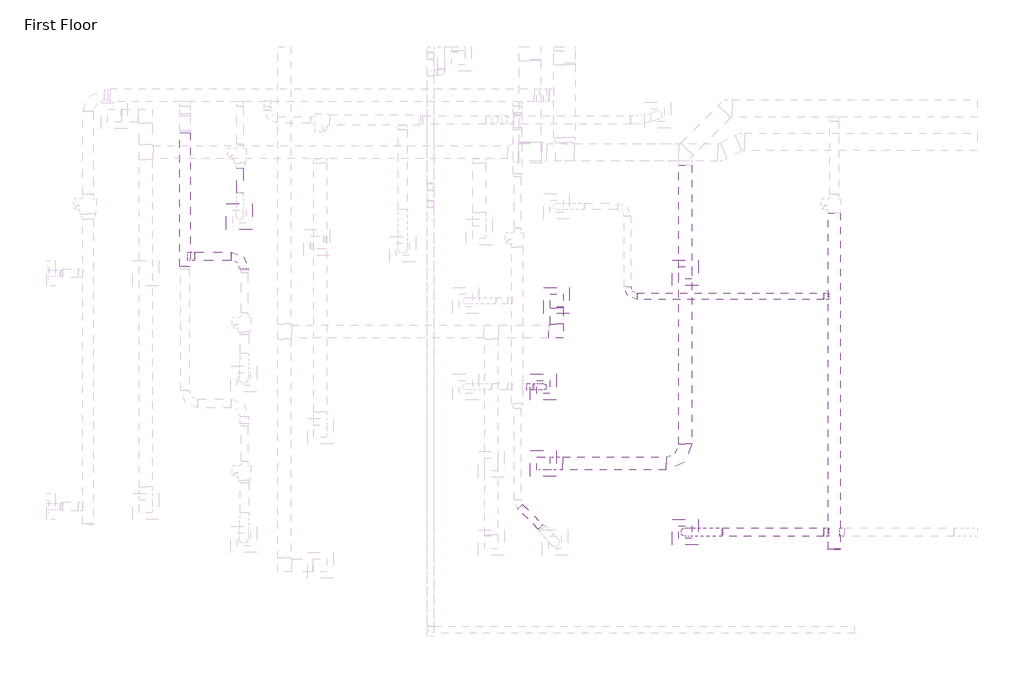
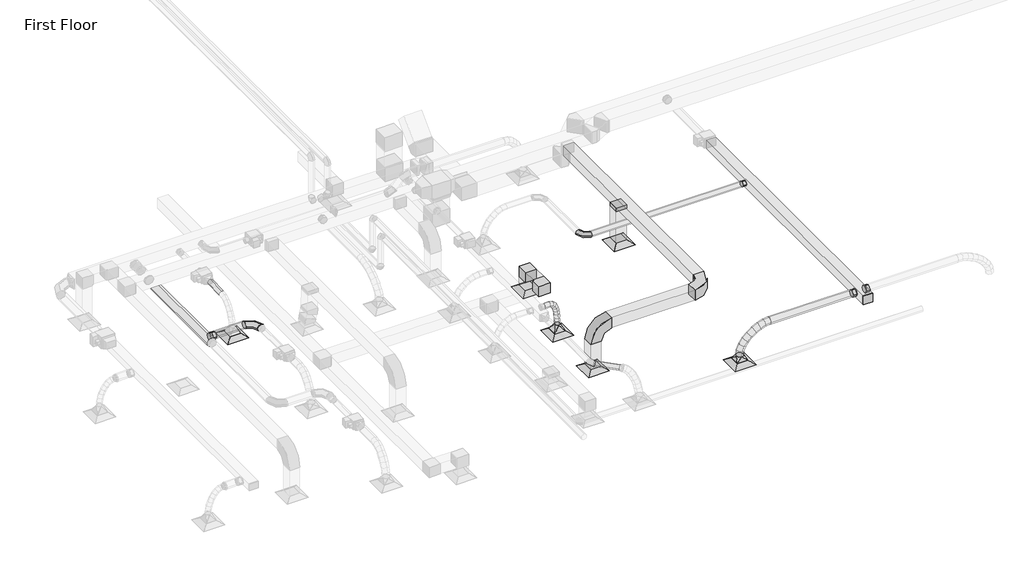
# One storey, part 4 of 61: 16 duct segments, 14 duct fittings, 6 air terminals.
"""IFC4 building model written with IfcOpenShell, lengths in millimetres."""

from ifc_helpers import new_model, si_unit, point, frame, frame_2d, origin, place, context, project, spatial, polyline, circle_curve, ellipse_curve, trimmed, segment, composite_curve, outline, extrude, transform, mapped, element, save
from ifc_brep_helpers import plane_surface, cylinder_surface, advanced_brep
from components import m_exhaust_grill_er_600_x_600_face_300_x_300_connection_ff221211, m_rectangular_elbow_mitered_standard_8eee5933, m_rectangular_elbow_radius_1_5_w_86011e9f, m_rectangular_endcap_standard_7316ac99, m_rectangular_takeoff_standard_c00386d1, m_rectangular_to_round_transition_angle_45_degree_8f201c83, m_rectangular_to_round_transition_angle_45_degree_60daae35, m_round_elbow_1_5_d_2e586196, m_round_elbow_1_5_d_b7bc3624, m_round_takeoff_standard_d02f3bf7, m_round_takeoff_standard_8efdd074, m_round_takeoff_standard_45336e8a, m_round_takeoff_standard_4e9a6aa0

model = new_model("IFC4")

# Units and contexts
model_context = context("Model", 3, world=origin())
ifc_project = project(units=[si_unit("LENGTHUNIT", "METRE", prefix="MILLI")], contexts=[model_context])

# Site, building, storey
site = spatial("IfcSite", under=ifc_project)
building = spatial("IfcBuilding", under=site)
storey = spatial("IfcBuildingStorey", under=building, Name="First Floor", Elevation=0.0)

# Air terminals
placement = place(None, origin())
m_exhaust_grill_er_600_x_600_face_300_x_300_connection_shape = m_exhaust_grill_er_600_x_600_face_300_x_300_connection_ff221211(model_context)
element("IfcAirTerminal", 1, ObjectType="M_Exhaust Grill : ER-600 x 600 Face 300 x 300 Connection", at=placement, inside=storey, context=model_context, shape_type="MappedRepresentation", body=[
    mapped(m_exhaust_grill_er_600_x_600_face_300_x_300_connection_shape, transform((-39248.7372444, 7090.0613083, 2680.0), x_axis=(1.0, 0.0, 0.0), y_axis=(0.0, 1.0, 0.0), z_axis=(0.0, 0.0, 1.0))),
])
element("IfcAirTerminal", 2, ObjectType="M_Return Register : RR-600 x 600 Face 300 x 300 Connection", at=placement, inside=storey, context=model_context, shape_type="MappedRepresentation", body=[
    mapped(m_exhaust_grill_er_600_x_600_face_300_x_300_connection_shape, transform((-39554.8939141, 3309.4994864, 2680.0), x_axis=(1.0, 0.0, 0.0), y_axis=(0.0, 1.0, 0.0), z_axis=(0.0, 0.0, 1.0))),
])
element("IfcAirTerminal", 3, ObjectType="M_Return Register : RR-600 x 600 Face 300 x 300 Connection", at=placement, inside=storey, context=model_context, shape_type="MappedRepresentation", body=[
    mapped(m_exhaust_grill_er_600_x_600_face_300_x_300_connection_shape, transform((-36259.5438707, 7737.2789856, 2680.0), x_axis=(1.0, 0.0, 0.0), y_axis=(0.0, 1.0, 0.0), z_axis=(0.0, 0.0, 1.0))),
])
element("IfcAirTerminal", 4, ObjectType="M_Supply Diffuser : SD-600 x 600 Face 300 x 300 Connection", at=placement, inside=storey, context=model_context, shape_type="MappedRepresentation", body=[
    mapped(m_exhaust_grill_er_600_x_600_face_300_x_300_connection_shape, transform((-46605.270034, 9039.3672466, 2680.0), x_axis=(1.0, 0.0, 0.0), y_axis=(0.0, 1.0, 0.0), z_axis=(0.0, 0.0, 1.0))),
])
element("IfcAirTerminal", 5, ObjectType="M_Supply Diffuser : SD-600 x 600 Face 300 x 300 Connection", at=placement, inside=storey, context=model_context, shape_type="MappedRepresentation", body=[
    mapped(m_exhaust_grill_er_600_x_600_face_300_x_300_connection_shape, transform((-39554.8939141, 5090.8486203, 2680.0), x_axis=(1.0, 0.0, 0.0), y_axis=(0.0, 1.0, 0.0), z_axis=(0.0, 0.0, 1.0))),
])
element("IfcAirTerminal", 6, ObjectType="M_Supply Diffuser : SD-600 x 600 Face 300 x 300 Connection", at=placement, inside=storey, context=model_context, shape_type="MappedRepresentation", body=[
    mapped(m_exhaust_grill_er_600_x_600_face_300_x_300_connection_shape, transform((-36259.5438707, 1718.8314851, 2680.0), x_axis=(1.0, 0.0, 0.0), y_axis=(0.0, 1.0, 0.0), z_axis=(0.0, 0.0, 1.0))),
])

# Duct fittings
m_rectangular_elbow_mitered_standard_shape = m_rectangular_elbow_mitered_standard_8eee5933(model_context)
element("IfcDuctFitting", 7, ObjectType="M_Rectangular Elbow - Mitered : Standard", at=placement, inside=storey, context=model_context, shape_type="MappedRepresentation", body=[
    mapped(m_rectangular_elbow_mitered_standard_shape, transform((-39248.7372444, 7090.0613083, 3200.0), x_axis=(0.0, 0.0, 1.0), y_axis=(0.0, -1.0, 0.0), z_axis=(1.0, 0.0, 0.0))),
])
element("IfcDuctFitting", 8, ObjectType="M_Rectangular Elbow - Mitered : Standard", at=placement, inside=storey, context=model_context, shape_type="MappedRepresentation", body=[
    mapped(m_rectangular_elbow_mitered_standard_shape, transform((-39248.7372444, 6376.0224534, 3200.0), x_axis=(1.0, 0.0, 0.0), y_axis=(0.0, 1.0, 0.0), z_axis=(0.0, 0.0, 1.0))),
])
m_rectangular_elbow_radius_1_5_w_shape = m_rectangular_elbow_radius_1_5_w_86011e9f(model_context)
element("IfcDuctFitting", 9, ObjectType="M_Rectangular Elbow - Radius : 1.5 W", at=placement, inside=storey, context=model_context, shape_type="MappedRepresentation", body=[
    mapped(m_rectangular_elbow_radius_1_5_w_shape, transform((-39554.8939141, 3309.4994864, 4000.0), x_axis=(0.0, 0.0, 1.0), y_axis=(1.0, 0.0, 0.0), z_axis=(0.0, 1.0, 0.0))),
])
element("IfcDuctFitting", 10, ObjectType="M_Rectangular Elbow - Radius : 1.5 W", at=placement, inside=storey, context=model_context, shape_type="MappedRepresentation", body=[
    mapped(m_rectangular_elbow_radius_1_5_w_shape, transform((-36259.5438707, 3309.4994864, 4000.0), x_axis=(1.0, 0.0, 0.0), y_axis=(0.0, 1.0, 0.0), z_axis=(0.0, 0.0, 1.0))),
])
m_rectangular_endcap_standard_shape = m_rectangular_endcap_standard_7316ac99(model_context)
element("IfcDuctFitting", 11, ObjectType="M_Rectangular Endcap : Standard", at=placement, inside=storey, context=model_context, shape_type="MappedRepresentation", body=[
    mapped(m_rectangular_endcap_standard_shape, transform((-32807.2625281, 1328.9329872, 3644.1), x_axis=(0.0, -1.0, 0.0), y_axis=(1.0, 0.0, 0.0), z_axis=(0.0, 0.0, 1.0))),
])
m_rectangular_takeoff_standard_shape = m_rectangular_takeoff_standard_c00386d1(model_context)
element("IfcDuctFitting", 12, ObjectType="M_Rectangular Takeoff : Standard", at=placement, inside=storey, context=model_context, shape_type="MappedRepresentation", body=[
    mapped(m_rectangular_takeoff_standard_shape, transform((-36259.5438707, 7737.2789856, 3850.0), x_axis=(0.0, 0.0, -1.0), y_axis=(1.0, 0.0, 0.0), z_axis=(0.0, -1.0, 0.0))),
])
m_rectangular_to_round_transition_angle_45_degree_shape = m_rectangular_to_round_transition_angle_45_degree_8f201c83(model_context)
element("IfcDuctFitting", 13, ObjectType="M_Rectangular to Round Transition - Angle : 45 Degree", at=placement, inside=storey, context=model_context, shape_type="MappedRepresentation", body=[
    mapped(m_rectangular_to_round_transition_angle_45_degree_shape, transform((-39554.8939141, 5090.8486203, 2781.6), x_axis=(0.0, 0.0, 1.0), y_axis=(1.0, 0.0, 0.0), z_axis=(0.0, 1.0, 0.0))),
])
m_rectangular_to_round_transition_angle_45_degree_2_shape = m_rectangular_to_round_transition_angle_45_degree_60daae35(model_context)
element("IfcDuctFitting", 14, ObjectType="M_Rectangular to Round Transition - Angle : 45 Degree", at=placement, inside=storey, context=model_context, shape_type="MappedRepresentation", body=[
    mapped(m_rectangular_to_round_transition_angle_45_degree_2_shape, transform((-36259.5438707, 1718.8314851, 2781.6), x_axis=(0.0, 0.0, 1.0), y_axis=(1.0, 0.0, 0.0), z_axis=(0.0, 1.0, 0.0))),
])
m_round_elbow_1_5_d_shape = m_round_elbow_1_5_d_2e586196(model_context)
element("IfcDuctFitting", 15, ObjectType="M_Round Elbow : 1.5 D", at=placement, inside=storey, context=model_context, shape_type="MappedRepresentation", body=[
    mapped(m_round_elbow_1_5_d_shape, transform((-37607.2625281, 7192.6438141, 3644.1), x_axis=(0.0, -1.0, 0.0), y_axis=(1.0, 0.0, 0.0), z_axis=(0.0, 0.0, 1.0))),
])
m_round_elbow_1_5_d_2_shape = m_round_elbow_1_5_d_b7bc3624(model_context)
element("IfcDuctFitting", 16, ObjectType="M_Round Elbow : 1.5 D", at=placement, inside=storey, context=model_context, shape_type="MappedRepresentation", body=[
    mapped(m_round_elbow_1_5_d_2_shape, transform((-46488.9134544, 8124.2820296, 3609.5), x_axis=(0.0, 0.9999999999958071, 2.895840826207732e-06), y_axis=(-1.0000000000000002, 0.0, 0.0), z_axis=(0.0, -2.895840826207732e-06, 0.9999999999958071))),
])
m_round_takeoff_standard_shape = m_round_takeoff_standard_d02f3bf7(model_context)
element("IfcDuctFitting", 17, ObjectType="M_Round Takeoff : Standard", at=placement, inside=storey, context=model_context, shape_type="MappedRepresentation", body=[
    mapped(m_round_takeoff_standard_shape, transform((-32944.7625281, 7192.6438141, 3644.1), x_axis=(-1.0, 0.0, 0.0), y_axis=(0.0, 1.0, 0.0), z_axis=(0.0, 0.0, -1.0))),
])
m_round_takeoff_standard_2_shape = m_round_takeoff_standard_8efdd074(model_context)
element("IfcDuctFitting", 18, ObjectType="M_Round Takeoff : Standard", at=placement, inside=storey, context=model_context, shape_type="MappedRepresentation", body=[
    mapped(m_round_takeoff_standard_2_shape, transform((-32944.7625281, 1718.8314851, 3644.1), x_axis=(-1.0, 0.0, 0.0), y_axis=(0.0, 1.0, 0.0), z_axis=(0.0, 0.0, -1.0))),
])
m_round_takeoff_standard_3_shape = m_round_takeoff_standard_45336e8a(model_context)
element("IfcDuctFitting", 19, ObjectType="M_Round Takeoff : Standard", at=placement, inside=storey, context=model_context, shape_type="MappedRepresentation", body=[
    mapped(m_round_takeoff_standard_3_shape, transform((-32669.7625281, 1718.8314851, 3644.1), x_axis=(1.0, 0.0, 0.0), y_axis=(0.0, -1.0, 0.0), z_axis=(0.0, 0.0, -1.0))),
])
m_round_takeoff_standard_4_shape = m_round_takeoff_standard_4e9a6aa0(model_context)
element("IfcDuctFitting", 20, ObjectType="M_Round Takeoff : Standard", at=placement, inside=storey, context=model_context, shape_type="MappedRepresentation", body=[
    mapped(m_round_takeoff_standard_4_shape, transform((-47743.9134544, 8124.2820296, 3609.5), x_axis=(1.0, 0.0, 0.0), y_axis=(0.0, -1.0, 0.0), z_axis=(0.0, 0.0, -1.0))),
])

# Duct segments
element("IfcDuctSegment", 21, ObjectType="Flex - Round", at=placement, inside=storey, context=model_context, shape_type="AdvancedBrep", body=[
    advanced_brep(
    [(-39779.8939141, 5165.8486203, 3619.1), (-39797.8129849, 5090.8486203, 3546.2720733), (-39779.8939141, 5015.8486203, 3619.1), (-39761.9748433, 5090.8486203, 3691.9279267), (-39703.8152462, 5165.8486203, 3600.381095), (-39740.1263123, 5090.8486203, 3532.0784581), (-39703.8152462, 5015.8486203, 3600.381095), (-39667.5041801, 5090.8486203, 3668.683732), (-39554.8939141, 5165.8486203, 2962.6660172), (-39479.8940509, 5090.8486203, 2962.8092731), (-39554.8939141, 5015.8486203, 2962.6660172), (-39629.8937773, 5090.8486203, 2962.5227612), (-39647.1545959, 5165.8486203, 3549.0598796), (-39707.4152587, 5090.8486203, 3502.4499412), (-39647.1545959, 5015.8486203, 3549.0598796), (-39586.8939332, 5090.8486203, 3595.6698179), (-39607.0534785, 5165.8486203, 3472.3896027), (-39677.1790229, 5090.8486203, 3444.6405655), (-39607.0534785, 5015.8486203, 3472.3896027), (-39536.9279341, 5090.8486203, 3500.13864), (-39580.6534091, 5165.8486203, 3377.6235136), (-39654.1662127, 5090.8486203, 3362.0334334), (-39580.6534091, 5015.8486203, 3377.6235136), (-39507.1406054, 5090.8486203, 3393.2135939), (-39565.0959028, 5165.8486203, 3272.0148614), (-39639.7162465, 5090.8486203, 3263.9430693), (-39565.0959028, 5015.8486203, 3272.0148614), (-39490.475559, 5090.8486203, 3280.0866535), (-39557.5224747, 5165.8486203, 3162.8168952), (-39632.4622542, 5090.8486203, 3159.3509079), (-39557.5224747, 5015.8486203, 3162.8168952), (-39482.5826953, 5090.8486203, 3166.2828825), (-39555.0746401, 5165.8486203, 3057.2828641), (-39630.072979, 5090.8486203, 3056.3415606), (-39555.0746401, 5015.8486203, 3057.2828641), (-39480.0763013, 5090.8486203, 3058.2241675)],
    [
        (0, 1, circle_curve(frame((-39779.8939141, 5090.8486203, 3619.1), z_axis=(-0.9710390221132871, 0.0, 0.23892094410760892), x_axis=(0.0, 1.0, 0.0)), 75.0)),
        (1, 2, circle_curve(frame((-39779.8939141, 5090.8486203, 3619.1), z_axis=(-0.9710390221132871, 0.0, 0.23892094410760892), x_axis=(0.0, 1.0, 0.0)), 75.0)),
        (2, 3, circle_curve(frame((-39779.8939141, 5090.8486203, 3619.1), z_axis=(-0.9710390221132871, 0.0, 0.23892094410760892), x_axis=(0.0, 1.0, 0.0)), 75.0)),
        (3, 0, circle_curve(frame((-39779.8939141, 5090.8486203, 3619.1), z_axis=(-0.9710390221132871, 0.0, 0.23892094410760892), x_axis=(0.0, 1.0, 0.0)), 75.0)),
        (0, 4),
        (4, 5, ellipse_curve(frame((-39703.8152462, 5090.8486203, 3600.381095), z_axis=(-0.8829802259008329, 0.0, 0.4694101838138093), x_axis=(-0.46941018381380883, 0.0, -0.8829802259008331)), 77.354662, 75.0)),
        (5, 1),
        (5, 6, ellipse_curve(frame((-39703.8152462, 5090.8486203, 3600.381095), z_axis=(-0.8829802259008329, 0.0, 0.4694101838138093), x_axis=(-0.46941018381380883, 0.0, -0.8829802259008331)), 77.354662, 75.0)),
        (6, 2),
        (6, 7, ellipse_curve(frame((-39703.8152462, 5090.8486203, 3600.381095), z_axis=(-0.8829802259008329, 0.0, 0.4694101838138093), x_axis=(-0.46941018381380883, 0.0, -0.8829802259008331)), 77.354662, 75.0)),
        (7, 3),
        (7, 4, ellipse_curve(frame((-39703.8152462, 5090.8486203, 3600.381095), z_axis=(-0.8829802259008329, 0.0, 0.4694101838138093), x_axis=(-0.46941018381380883, 0.0, -0.8829802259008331)), 77.354662, 75.0)),
        (8, 9, circle_curve(frame((-39554.8939141, 5090.8486203, 2962.6660172), z_axis=(0.0019100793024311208, 0.0, -0.9999981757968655), x_axis=(0.0, 1.0, 0.0)), 75.0)),
        (9, 10, circle_curve(frame((-39554.8939141, 5090.8486203, 2962.6660172), z_axis=(0.0019100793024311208, 0.0, -0.9999981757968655), x_axis=(0.0, 1.0, 0.0)), 75.0)),
        (10, 11, circle_curve(frame((-39554.8939141, 5090.8486203, 2962.6660172), z_axis=(0.0019100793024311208, 0.0, -0.9999981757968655), x_axis=(0.0, 1.0, 0.0)), 75.0)),
        (11, 8, circle_curve(frame((-39554.8939141, 5090.8486203, 2962.6660172), z_axis=(0.0019100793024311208, 0.0, -0.9999981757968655), x_axis=(0.0, 1.0, 0.0)), 75.0)),
        (4, 12),
        (12, 13, ellipse_curve(frame((-39647.1545959, 5090.8486203, 3549.0598796), z_axis=(-0.6118163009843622, 0.0, 0.7909998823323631), x_axis=(-0.7909998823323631, 0.0, -0.6118163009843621)), 76.1828972, 75.0)),
        (13, 5),
        (13, 14, ellipse_curve(frame((-39647.1545959, 5090.8486203, 3549.0598796), z_axis=(-0.6118163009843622, 0.0, 0.7909998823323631), x_axis=(-0.7909998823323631, 0.0, -0.6118163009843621)), 76.1828972, 75.0)),
        (14, 6),
        (14, 15, ellipse_curve(frame((-39647.1545959, 5090.8486203, 3549.0598796), z_axis=(-0.6118163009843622, 0.0, 0.7909998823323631), x_axis=(-0.7909998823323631, 0.0, -0.6118163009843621)), 76.1828972, 75.0)),
        (15, 7),
        (15, 12, ellipse_curve(frame((-39647.1545959, 5090.8486203, 3549.0598796), z_axis=(-0.6118163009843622, 0.0, 0.7909998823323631), x_axis=(-0.7909998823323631, 0.0, -0.6118163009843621)), 76.1828972, 75.0)),
        (12, 16),
        (16, 17, ellipse_curve(frame((-39607.0534785, 5090.8486203, 3472.3896027), z_axis=(-0.3679453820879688, 0.0, 0.9298474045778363), x_axis=(-0.9298474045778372, 0.0, -0.367945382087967)), 75.4161856, 75.0)),
        (17, 13),
        (17, 18, ellipse_curve(frame((-39607.0534785, 5090.8486203, 3472.3896027), z_axis=(-0.3679453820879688, 0.0, 0.9298474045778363), x_axis=(-0.9298474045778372, 0.0, -0.367945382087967)), 75.4161856, 75.0)),
        (18, 14),
        (18, 19, ellipse_curve(frame((-39607.0534785, 5090.8486203, 3472.3896027), z_axis=(-0.3679453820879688, 0.0, 0.9298474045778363), x_axis=(-0.9298474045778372, 0.0, -0.367945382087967)), 75.4161856, 75.0)),
        (19, 15),
        (19, 16, ellipse_curve(frame((-39607.0534785, 5090.8486203, 3472.3896027), z_axis=(-0.3679453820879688, 0.0, 0.9298474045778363), x_axis=(-0.9298474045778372, 0.0, -0.367945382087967)), 75.4161856, 75.0)),
        (16, 20),
        (20, 21, ellipse_curve(frame((-39580.6534091, 5090.8486203, 3377.6235136), z_axis=(-0.20745906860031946, 0.0, 0.9782436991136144), x_axis=(-0.9782436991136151, 0.0, -0.20745906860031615)), 75.1477405, 75.0)),
        (21, 17),
        (21, 22, ellipse_curve(frame((-39580.6534091, 5090.8486203, 3377.6235136), z_axis=(-0.20745906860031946, 0.0, 0.9782436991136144), x_axis=(-0.9782436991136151, 0.0, -0.20745906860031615)), 75.1477405, 75.0)),
        (22, 18),
        (22, 23, ellipse_curve(frame((-39580.6534091, 5090.8486203, 3377.6235136), z_axis=(-0.20745906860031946, 0.0, 0.9782436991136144), x_axis=(-0.9782436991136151, 0.0, -0.20745906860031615)), 75.1477405, 75.0)),
        (23, 19),
        (23, 20, ellipse_curve(frame((-39580.6534091, 5090.8486203, 3377.6235136), z_axis=(-0.20745906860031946, 0.0, 0.9782436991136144), x_axis=(-0.9782436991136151, 0.0, -0.20745906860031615)), 75.1477405, 75.0)),
        (20, 24),
        (24, 25, ellipse_curve(frame((-39565.0959028, 5090.8486203, 3272.0148614), z_axis=(-0.10754410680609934, 0.0, 0.9942003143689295), x_axis=(-0.9942003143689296, 0.0, -0.1075441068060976)), 75.0556429, 75.0)),
        (25, 21),
        (25, 26, ellipse_curve(frame((-39565.0959028, 5090.8486203, 3272.0148614), z_axis=(-0.10754410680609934, 0.0, 0.9942003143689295), x_axis=(-0.9942003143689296, 0.0, -0.1075441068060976)), 75.0556429, 75.0)),
        (26, 22),
        (26, 27, ellipse_curve(frame((-39565.0959028, 5090.8486203, 3272.0148614), z_axis=(-0.10754410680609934, 0.0, 0.9942003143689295), x_axis=(-0.9942003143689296, 0.0, -0.1075441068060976)), 75.0556429, 75.0)),
        (27, 23),
        (27, 24, ellipse_curve(frame((-39565.0959028, 5090.8486203, 3272.0148614), z_axis=(-0.10754410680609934, 0.0, 0.9942003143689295), x_axis=(-0.9942003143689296, 0.0, -0.1075441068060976)), 75.0556429, 75.0)),
        (24, 28),
        (28, 29, ellipse_curve(frame((-39557.5224747, 5090.8486203, 3162.8168952), z_axis=(-0.046200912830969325, 0.0, 0.9989321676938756), x_axis=(-0.9989321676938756, 0.0, -0.04620091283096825)), 75.0198881, 75.0)),
        (29, 25),
        (29, 30, ellipse_curve(frame((-39557.5224747, 5090.8486203, 3162.8168952), z_axis=(-0.046200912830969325, 0.0, 0.9989321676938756), x_axis=(-0.9989321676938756, 0.0, -0.04620091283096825)), 75.0198881, 75.0)),
        (30, 26),
        (30, 31, ellipse_curve(frame((-39557.5224747, 5090.8486203, 3162.8168952), z_axis=(-0.046200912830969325, 0.0, 0.9989321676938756), x_axis=(-0.9989321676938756, 0.0, -0.04620091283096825)), 75.0198881, 75.0)),
        (31, 27),
        (31, 28, ellipse_curve(frame((-39557.5224747, 5090.8486203, 3162.8168952), z_axis=(-0.046200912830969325, 0.0, 0.9989321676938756), x_axis=(-0.9989321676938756, 0.0, -0.04620091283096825)), 75.0198881, 75.0)),
        (28, 32),
        (32, 33, ellipse_curve(frame((-39555.0746401, 5090.8486203, 3057.2828641), z_axis=(-0.012550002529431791, 0.0, 0.9999212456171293), x_axis=(-0.9999212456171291, -1.8166721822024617e-12, -0.012550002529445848)), 75.0042458, 75.0)),
        (33, 29),
        (33, 34, ellipse_curve(frame((-39555.0746401, 5090.8486203, 3057.2828641), z_axis=(-0.012550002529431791, 0.0, 0.9999212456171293), x_axis=(-0.9999212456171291, -1.8166721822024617e-12, -0.012550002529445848)), 75.0042458, 75.0)),
        (34, 30),
        (34, 35, ellipse_curve(frame((-39555.0746401, 5090.8486203, 3057.2828641), z_axis=(-0.012550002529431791, 0.0, 0.9999212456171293), x_axis=(-0.9999212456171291, -1.8166721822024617e-12, -0.012550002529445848)), 75.0042458, 75.0)),
        (35, 31),
        (35, 32, ellipse_curve(frame((-39555.0746401, 5090.8486203, 3057.2828641), z_axis=(-0.012550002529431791, 0.0, 0.9999212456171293), x_axis=(-0.9999212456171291, -1.8166721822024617e-12, -0.012550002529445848)), 75.0042458, 75.0)),
        (32, 8),
        (11, 33),
        (10, 34),
        (9, 35),
    ],
    [
        plane_surface(frame((-39779.8939141, 5165.8486203, 3619.1), z_axis=(-0.9710390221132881, 0.0, 0.23892094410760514), x_axis=(0.23892094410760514, 0.0, 0.9710390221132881))),
        cylinder_surface(frame((-39779.8939141, 5090.8486203, 3619.1), z_axis=(-0.9710390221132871, 0.0, 0.23892094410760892), x_axis=(0.0, 1.0, 0.0)), 75.0),
        plane_surface(frame((-39554.8939141, 5165.8486203, 2962.6660172), z_axis=(0.0019100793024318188, 0.0, -0.9999981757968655), x_axis=(0.9999981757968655, 0.0, 0.0019100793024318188))),
        cylinder_surface(frame((-39703.8152462, 5090.8486203, 3600.381095), z_axis=(-0.7411659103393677, 0.0, 0.6713218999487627), x_axis=(0.0, 1.0, 0.0)), 75.0),
        cylinder_surface(frame((-39647.1545959, 5090.8486203, 3549.0598796), z_axis=(-0.4634672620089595, 0.0, 0.8861140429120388), x_axis=(0.0, 1.0, 0.0)), 75.0),
        cylinder_surface(frame((-39607.0534785, 5090.8486203, 3472.3896027), z_axis=(-0.26836247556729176, 0.0, 0.9633180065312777), x_axis=(0.0, 1.0, 0.0)), 75.0),
        cylinder_surface(frame((-39580.6534091, 5090.8486203, 3377.6235136), z_axis=(-0.14573993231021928, 0.0, 0.9893229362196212), x_axis=(0.0, 1.0, 0.0)), 75.0),
        cylinder_surface(frame((-39565.0959028, 5090.8486203, 3272.0148614), z_axis=(-0.06918882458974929, 0.0, 0.9976035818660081), x_axis=(0.0, 1.0, 0.0)), 75.0),
        cylinder_surface(frame((-39557.5224747, 5090.8486203, 3162.8168952), z_axis=(-0.023188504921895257, 0.0, 0.9997311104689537), x_axis=(0.0, 1.0, 0.0)), 75.0),
        cylinder_surface(frame((-39555.0746401, 5090.8486203, 3057.2828641), z_axis=(-0.0019100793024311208, 0.0, 0.9999981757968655), x_axis=(0.0, 1.0, 0.0)), 75.0),
    ],
    [
        (0, [[1, 2, 3, 4]]),
        (1, [[-1, 5, 6, 7]]),
        (1, [[-2, -7, 8, 9]]),
        (1, [[-3, -9, 10, 11]]),
        (1, [[-4, -11, 12, -5]]),
        (2, [[13, 14, 15, 16]]),
        (3, [[-6, 17, 18, 19]]),
        (3, [[-8, -19, 20, 21]]),
        (3, [[-10, -21, 22, 23]]),
        (3, [[-12, -23, 24, -17]]),
        (4, [[-18, 25, 26, 27]]),
        (4, [[-20, -27, 28, 29]]),
        (4, [[-22, -29, 30, 31]]),
        (4, [[-24, -31, 32, -25]]),
        (5, [[-26, 33, 34, 35]]),
        (5, [[-28, -35, 36, 37]]),
        (5, [[-30, -37, 38, 39]]),
        (5, [[-32, -39, 40, -33]]),
        (6, [[-34, 41, 42, 43]]),
        (6, [[-36, -43, 44, 45]]),
        (6, [[-38, -45, 46, 47]]),
        (6, [[-40, -47, 48, -41]]),
        (7, [[-42, 49, 50, 51]]),
        (7, [[-44, -51, 52, 53]]),
        (7, [[-46, -53, 54, 55]]),
        (7, [[-48, -55, 56, -49]]),
        (8, [[-50, 57, 58, 59]]),
        (8, [[-52, -59, 60, 61]]),
        (8, [[-54, -61, 62, 63]]),
        (8, [[-56, -63, 64, -57]]),
        (9, [[-58, 65, -16, 66]]),
        (9, [[-60, -66, -15, 67]]),
        (9, [[-62, -67, -14, 68]]),
        (9, [[-64, -68, -13, -65]]),
    ],
),
])
element("IfcDuctSegment", 22, ObjectType="Flex - Round", at=placement, inside=storey, context=model_context, shape_type="AdvancedBrep", body=[
    advanced_brep(
    [(-35407.2625281, 1618.8314851, 3644.1), (-35395.9873222, 1718.8314851, 3544.7376845), (-35407.2625281, 1818.8314851, 3644.1), (-35418.5377339, 1718.8314851, 3743.4623155), (-35552.017296, 1618.8314851, 3627.6738549), (-35531.1300146, 1718.8314851, 3529.4022762), (-35552.017296, 1818.8314851, 3627.6738549), (-35572.9045774, 1718.8314851, 3725.9454336), (-36259.5438707, 1618.8314851, 2902.3106781), (-36358.4195327, 1718.8314851, 2917.2640547), (-36259.5438707, 1818.8314851, 2902.3106781), (-36160.6682088, 1718.8314851, 2887.3573016), (-35699.3212406, 1618.8314851, 3581.1586694), (-35661.4298795, 1718.8314851, 3488.2565866), (-35699.3212406, 1818.8314851, 3581.1586694), (-35737.2126018, 1718.8314851, 3674.0607522), (-35842.4398308, 1618.8314851, 3508.6993179), (-35790.5332748, 1718.8314851, 3422.8929724), (-35842.4398308, 1818.8314851, 3508.6993179), (-35894.3463868, 1718.8314851, 3594.5056633), (-35974.6385352, 1618.8314851, 3414.4406749), (-35910.2862599, 1718.8314851, 3337.5082184), (-35974.6385352, 1818.8314851, 3414.4406749), (-36038.9908106, 1718.8314851, 3491.3731314), (-36089.1828227, 1618.8314851, 3302.5276149), (-36013.0678856, 1718.8314851, 3237.0876168), (-36089.1828227, 1818.8314851, 3302.5276149), (-36165.2977597, 1718.8314851, 3367.967613), (-36179.3381619, 1618.8314851, 3177.1050124), (-36091.9748533, 1718.8314851, 3127.313561), (-36179.3381619, 1818.8314851, 3177.1050124), (-36266.7014705, 1718.8314851, 3226.8964639), (-36238.3700217, 1618.8314851, 3042.317742), (-36141.4698781, 1718.8314851, 3014.3017176), (-36238.3700217, 1818.8314851, 3042.317742), (-36335.2701652, 1718.8314851, 3070.3337665)],
    [
        (0, 1, circle_curve(frame((-35407.2625281, 1718.8314851, 3644.1), z_axis=(0.9936231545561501, 0.0, 0.11275205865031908), x_axis=(0.0, -1.0, 0.0)), 100.0)),
        (1, 2, circle_curve(frame((-35407.2625281, 1718.8314851, 3644.1), z_axis=(0.9936231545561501, 0.0, 0.11275205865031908), x_axis=(0.0, -1.0, 0.0)), 100.0)),
        (2, 3, circle_curve(frame((-35407.2625281, 1718.8314851, 3644.1), z_axis=(0.9936231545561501, 0.0, 0.11275205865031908), x_axis=(0.0, -1.0, 0.0)), 100.0)),
        (3, 0, circle_curve(frame((-35407.2625281, 1718.8314851, 3644.1), z_axis=(0.9936231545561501, 0.0, 0.11275205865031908), x_axis=(0.0, -1.0, 0.0)), 100.0)),
        (0, 4),
        (4, 5, ellipse_curve(frame((-35552.017296, 1718.8314851, 3627.6738549), z_axis=(0.9781495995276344, 0.0, 0.20790228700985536), x_axis=(0.2079022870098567, 0.0, -0.9781495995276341)), 100.4668189, 100.0)),
        (5, 1),
        (5, 6, ellipse_curve(frame((-35552.017296, 1718.8314851, 3627.6738549), z_axis=(0.9781495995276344, 0.0, 0.20790228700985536), x_axis=(0.2079022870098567, 0.0, -0.9781495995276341)), 100.4668189, 100.0)),
        (6, 2),
        (6, 7, ellipse_curve(frame((-35552.017296, 1718.8314851, 3627.6738549), z_axis=(0.9781495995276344, 0.0, 0.20790228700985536), x_axis=(0.2079022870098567, 0.0, -0.9781495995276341)), 100.4668189, 100.0)),
        (7, 3),
        (7, 4, ellipse_curve(frame((-35552.017296, 1718.8314851, 3627.6738549), z_axis=(0.9781495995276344, 0.0, 0.20790228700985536), x_axis=(0.2079022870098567, 0.0, -0.9781495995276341)), 100.4668189, 100.0)),
        (8, 9, circle_curve(frame((-36259.5438707, 1718.8314851, 2902.3106781), z_axis=(-0.14953376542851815, 0.0, -0.9887566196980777), x_axis=(0.0, -1.0, 0.0)), 100.0)),
        (9, 10, circle_curve(frame((-36259.5438707, 1718.8314851, 2902.3106781), z_axis=(-0.14953376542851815, 0.0, -0.9887566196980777), x_axis=(0.0, -1.0, 0.0)), 100.0)),
        (10, 11, circle_curve(frame((-36259.5438707, 1718.8314851, 2902.3106781), z_axis=(-0.14953376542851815, 0.0, -0.9887566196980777), x_axis=(0.0, -1.0, 0.0)), 100.0)),
        (11, 8, circle_curve(frame((-36259.5438707, 1718.8314851, 2902.3106781), z_axis=(-0.14953376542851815, 0.0, -0.9887566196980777), x_axis=(0.0, -1.0, 0.0)), 100.0)),
        (4, 12),
        (12, 13, ellipse_curve(frame((-35699.3212406, 1718.8314851, 3581.1586694), z_axis=(0.9259447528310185, 0.0, 0.3776589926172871), x_axis=(0.3776589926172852, 0.0, -0.9259447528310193)), 100.3322094, 100.0)),
        (13, 5),
        (13, 14, ellipse_curve(frame((-35699.3212406, 1718.8314851, 3581.1586694), z_axis=(0.9259447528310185, 0.0, 0.3776589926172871), x_axis=(0.3776589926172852, 0.0, -0.9259447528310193)), 100.3322094, 100.0)),
        (14, 6),
        (14, 15, ellipse_curve(frame((-35699.3212406, 1718.8314851, 3581.1586694), z_axis=(0.9259447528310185, 0.0, 0.3776589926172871), x_axis=(0.3776589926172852, 0.0, -0.9259447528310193)), 100.3322094, 100.0)),
        (15, 7),
        (15, 12, ellipse_curve(frame((-35699.3212406, 1718.8314851, 3581.1586694), z_axis=(0.9259447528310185, 0.0, 0.3776589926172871), x_axis=(0.3776589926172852, 0.0, -0.9259447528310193)), 100.3322094, 100.0)),
        (12, 16),
        (16, 17, ellipse_curve(frame((-35842.4398308, 1718.8314851, 3508.6993179), z_axis=(0.855627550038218, 0.0, 0.5175920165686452), x_axis=(0.5175920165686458, 0.0, -0.8556275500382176)), 100.2846921, 100.0)),
        (17, 13),
        (17, 18, ellipse_curve(frame((-35842.4398308, 1718.8314851, 3508.6993179), z_axis=(0.855627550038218, 0.0, 0.5175920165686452), x_axis=(0.5175920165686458, 0.0, -0.8556275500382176)), 100.2846921, 100.0)),
        (18, 14),
        (18, 19, ellipse_curve(frame((-35842.4398308, 1718.8314851, 3508.6993179), z_axis=(0.855627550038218, 0.0, 0.5175920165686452), x_axis=(0.5175920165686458, 0.0, -0.8556275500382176)), 100.2846921, 100.0)),
        (19, 15),
        (19, 16, ellipse_curve(frame((-35842.4398308, 1718.8314851, 3508.6993179), z_axis=(0.855627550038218, 0.0, 0.5175920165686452), x_axis=(0.5175920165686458, 0.0, -0.8556275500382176)), 100.2846921, 100.0)),
        (16, 20),
        (20, 21, ellipse_curve(frame((-35974.6385352, 1718.8314851, 3414.4406749), z_axis=(0.7670338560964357, 0.0, 0.6416066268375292), x_axis=(0.6416066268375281, 0.0, -0.7670338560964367)), 100.2986451, 100.0)),
        (21, 17),
        (21, 22, ellipse_curve(frame((-35974.6385352, 1718.8314851, 3414.4406749), z_axis=(0.7670338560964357, 0.0, 0.6416066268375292), x_axis=(0.6416066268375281, 0.0, -0.7670338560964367)), 100.2986451, 100.0)),
        (22, 18),
        (22, 23, ellipse_curve(frame((-35974.6385352, 1718.8314851, 3414.4406749), z_axis=(0.7670338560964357, 0.0, 0.6416066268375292), x_axis=(0.6416066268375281, 0.0, -0.7670338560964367)), 100.2986451, 100.0)),
        (23, 19),
        (23, 20, ellipse_curve(frame((-35974.6385352, 1718.8314851, 3414.4406749), z_axis=(0.7670338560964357, 0.0, 0.6416066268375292), x_axis=(0.6416066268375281, 0.0, -0.7670338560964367)), 100.2986451, 100.0)),
        (20, 24),
        (24, 25, ellipse_curve(frame((-36089.1828227, 1718.8314851, 3302.5276149), z_axis=(0.6519313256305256, 0.0, 0.758278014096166), x_axis=(0.7582780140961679, 0.0, -0.6519313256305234)), 100.378668, 100.0)),
        (25, 21),
        (25, 26, ellipse_curve(frame((-36089.1828227, 1718.8314851, 3302.5276149), z_axis=(0.6519313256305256, 0.0, 0.758278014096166), x_axis=(0.7582780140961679, 0.0, -0.6519313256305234)), 100.378668, 100.0)),
        (26, 22),
        (26, 27, ellipse_curve(frame((-36089.1828227, 1718.8314851, 3302.5276149), z_axis=(0.6519313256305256, 0.0, 0.758278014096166), x_axis=(0.7582780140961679, 0.0, -0.6519313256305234)), 100.378668, 100.0)),
        (27, 23),
        (27, 24, ellipse_curve(frame((-36089.1828227, 1718.8314851, 3302.5276149), z_axis=(0.6519313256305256, 0.0, 0.758278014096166), x_axis=(0.7582780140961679, 0.0, -0.6519313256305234)), 100.378668, 100.0)),
        (24, 28),
        (28, 29, ellipse_curve(frame((-36179.3381619, 1718.8314851, 3177.1050124), z_axis=(0.4951607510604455, 0.0, 0.8688013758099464), x_axis=(0.8688013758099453, 0.0, -0.49516075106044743)), 100.5561352, 100.0)),
        (29, 25),
        (29, 30, ellipse_curve(frame((-36179.3381619, 1718.8314851, 3177.1050124), z_axis=(0.4951607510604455, 0.0, 0.8688013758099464), x_axis=(0.8688013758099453, 0.0, -0.49516075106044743)), 100.5561352, 100.0)),
        (30, 26),
        (30, 31, ellipse_curve(frame((-36179.3381619, 1718.8314851, 3177.1050124), z_axis=(0.4951607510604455, 0.0, 0.8688013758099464), x_axis=(0.8688013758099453, 0.0, -0.49516075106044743)), 100.5561352, 100.0)),
        (31, 27),
        (31, 28, ellipse_curve(frame((-36179.3381619, 1718.8314851, 3177.1050124), z_axis=(0.4951607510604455, 0.0, 0.8688013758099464), x_axis=(0.8688013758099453, 0.0, -0.49516075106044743)), 100.5561352, 100.0)),
        (28, 32),
        (32, 33, ellipse_curve(frame((-36238.3700217, 1718.8314851, 3042.317742), z_axis=(0.2777468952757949, 0.0, 0.9606542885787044), x_axis=(0.9606542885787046, 0.0, -0.2777468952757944)), 100.8689023, 100.0)),
        (33, 29),
        (33, 34, ellipse_curve(frame((-36238.3700217, 1718.8314851, 3042.317742), z_axis=(0.2777468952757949, 0.0, 0.9606542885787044), x_axis=(0.9606542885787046, 0.0, -0.2777468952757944)), 100.8689023, 100.0)),
        (34, 30),
        (34, 35, ellipse_curve(frame((-36238.3700217, 1718.8314851, 3042.317742), z_axis=(0.2777468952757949, 0.0, 0.9606542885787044), x_axis=(0.9606542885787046, 0.0, -0.2777468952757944)), 100.8689023, 100.0)),
        (35, 31),
        (35, 32, ellipse_curve(frame((-36238.3700217, 1718.8314851, 3042.317742), z_axis=(0.2777468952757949, 0.0, 0.9606542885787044), x_axis=(0.9606542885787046, 0.0, -0.2777468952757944)), 100.8689023, 100.0)),
        (32, 8),
        (11, 33),
        (10, 34),
        (9, 35),
    ],
    [
        plane_surface(frame((-35407.2625281, 1818.8314851, 3644.1), z_axis=(0.9936231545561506, 0.0, 0.11275205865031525), x_axis=(0.11275205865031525, 0.0, -0.9936231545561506))),
        cylinder_surface(frame((-35407.2625281, 1718.8314851, 3644.1), z_axis=(0.9936231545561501, 0.0, 0.11275205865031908), x_axis=(0.0, -1.0, 0.0)), 100.0),
        plane_surface(frame((-36259.5438707, 1818.8314851, 2902.3106781), z_axis=(-0.14953376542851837, 0.0, -0.9887566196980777), x_axis=(0.9887566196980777, 0.0, -0.14953376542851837))),
        cylinder_surface(frame((-35552.017296, 1718.8314851, 3627.6738549), z_axis=(0.9535861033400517, 0.0, 0.30112048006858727), x_axis=(0.0, -1.0, 0.0)), 100.0),
        cylinder_surface(frame((-35699.3212406, 1718.8314851, 3581.1586694), z_axis=(0.8921716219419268, 0.0, 0.4516965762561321), x_axis=(0.0, -1.0, 0.0)), 100.0),
        cylinder_surface(frame((-35842.4398308, 1718.8314851, 3508.6993179), z_axis=(0.8142255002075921, 0.0, 0.5805487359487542), x_axis=(0.0, -1.0, 0.0)), 100.0),
        cylinder_surface(frame((-35974.6385352, 1718.8314851, 3414.4406749), z_axis=(0.7152744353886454, 0.0, 0.6988436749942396), x_axis=(0.0, -1.0, 0.0)), 100.0),
        cylinder_surface(frame((-36089.1828227, 1718.8314851, 3302.5276149), z_axis=(0.5836695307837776, 0.0, 0.8119913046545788), x_axis=(0.0, -1.0, 0.0)), 100.0),
        cylinder_surface(frame((-36179.3381619, 1718.8314851, 3177.1050124), z_axis=(0.401174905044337, 0.0, 0.91600147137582), x_axis=(0.0, -1.0, 0.0)), 100.0),
        cylinder_surface(frame((-36238.3700217, 1718.8314851, 3042.317742), z_axis=(0.14953376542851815, 0.0, 0.9887566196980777), x_axis=(0.0, -1.0, 0.0)), 100.0),
    ],
    [
        (0, [[1, 2, 3, 4]]),
        (1, [[-1, 5, 6, 7]]),
        (1, [[-2, -7, 8, 9]]),
        (1, [[-3, -9, 10, 11]]),
        (1, [[-4, -11, 12, -5]]),
        (2, [[13, 14, 15, 16]]),
        (3, [[-6, 17, 18, 19]]),
        (3, [[-8, -19, 20, 21]]),
        (3, [[-10, -21, 22, 23]]),
        (3, [[-12, -23, 24, -17]]),
        (4, [[-18, 25, 26, 27]]),
        (4, [[-20, -27, 28, 29]]),
        (4, [[-22, -29, 30, 31]]),
        (4, [[-24, -31, 32, -25]]),
        (5, [[-26, 33, 34, 35]]),
        (5, [[-28, -35, 36, 37]]),
        (5, [[-30, -37, 38, 39]]),
        (5, [[-32, -39, 40, -33]]),
        (6, [[-34, 41, 42, 43]]),
        (6, [[-36, -43, 44, 45]]),
        (6, [[-38, -45, 46, 47]]),
        (6, [[-40, -47, 48, -41]]),
        (7, [[-42, 49, 50, 51]]),
        (7, [[-44, -51, 52, 53]]),
        (7, [[-46, -53, 54, 55]]),
        (7, [[-48, -55, 56, -49]]),
        (8, [[-50, 57, 58, 59]]),
        (8, [[-52, -59, 60, 61]]),
        (8, [[-54, -61, 62, 63]]),
        (8, [[-56, -63, 64, -57]]),
        (9, [[-58, 65, -16, 66]]),
        (9, [[-60, -66, -15, 67]]),
        (9, [[-62, -67, -14, 68]]),
        (9, [[-64, -68, -13, -65]]),
    ],
),
])
element("IfcDuctSegment", 23, ObjectType="Mitered Elbows / Taps", at=placement, inside=storey, context=model_context, shape_type="SweptSolid", body=[
    extrude(outline(polyline([(-39398.7372444, 6915.0613083), (-39098.7372444, 6915.0613083), (-39098.7372444, 6551.0224534), (-39398.7372444, 6551.0224534), (-39398.7372444, 6915.0613083)])), frame((0.0, 0.0, 3050.0), z_axis=(0.0, 0.0, 1.0), x_axis=(1.0, 0.0, 0.0)), (0.0, 0.0, 1.0), 300.0),
])
element("IfcDuctSegment", 24, ObjectType="Mitered Elbows / Taps", at=placement, inside=storey, context=model_context, shape_type="SweptSolid", body=[
    extrude(outline(polyline([(-39098.7372444, 6940.0613083), (-39398.7372444, 6940.0613083), (-39398.7372444, 7240.0613083), (-39098.7372444, 7240.0613083), (-39098.7372444, 6940.0613083)])), frame((0.0, 0.0, 2781.6), z_axis=(0.0, 0.0, 1.0), x_axis=(1.0, 0.0, 0.0)), (0.0, 0.0, 1.0), 243.4),
])
element("IfcDuctSegment", 25, ObjectType="Radius Elbows / Taps", at=placement, inside=storey, context=model_context, shape_type="SweptSolid", body=[
    extrude(outline(polyline([(-32944.7625281, 9128.9329872), (-32669.7625281, 9128.9329872), (-32669.7625281, 1328.9329872), (-32944.7625281, 1328.9329872), (-32944.7625281, 9128.9329872)])), frame((0.0, 0.0, 3519.1), z_axis=(0.0, 0.0, 1.0), x_axis=(1.0, 0.0, 0.0)), (0.0, 0.0, 1.0), 250.0),
])
element("IfcDuctSegment", 26, ObjectType="Radius Elbows / Taps", at=placement, inside=storey, context=model_context, shape_type="SweptSolid", body=[
    extrude(outline(polyline([(-36109.5438707, 3759.4994864), (-36409.5438707, 3759.4994864), (-36409.5438707, 10234.5124787), (-36109.5438707, 10234.5124787), (-36109.5438707, 3759.4994864)])), frame((0.0, 0.0, 3850.0), z_axis=(0.0, 0.0, 1.0), x_axis=(1.0, 0.0, 0.0)), (0.0, 0.0, 1.0), 300.0),
])
element("IfcDuctSegment", 27, ObjectType="Radius Elbows / Taps", at=placement, inside=storey, context=model_context, shape_type="SweptSolid", body=[
    extrude(outline(polyline([(-39104.8939141, 3159.4994864), (-39104.8939141, 3459.4994864), (-36709.5438707, 3459.4994864), (-36709.5438707, 3159.4994864), (-39104.8939141, 3159.4994864)])), frame((0.0, 0.0, 3850.0), z_axis=(0.0, 0.0, 1.0), x_axis=(1.0, 0.0, 0.0)), (0.0, 0.0, 1.0), 300.0),
])
element("IfcDuctSegment", 28, ObjectType="Radius Elbows / Taps", at=placement, inside=storey, context=model_context, shape_type="SweptSolid", body=[
    extrude(outline(polyline([(-39404.8939141, 3459.4994864), (-39404.8939141, 3159.4994864), (-39704.8939141, 3159.4994864), (-39704.8939141, 3459.4994864), (-39404.8939141, 3459.4994864)])), frame((0.0, 0.0, 2781.6), z_axis=(0.0, 0.0, 1.0), x_axis=(1.0, 0.0, 0.0)), (0.0, 0.0, 1.0), 768.4),
])
element("IfcDuctSegment", 29, ObjectType="Radius Elbows / Taps", at=placement, inside=storey, context=model_context, shape_type="SweptSolid", body=[
    extrude(outline(polyline([(-36109.5438707, 7887.2789856), (-36109.5438707, 7587.2789856), (-36409.5438707, 7587.2789856), (-36409.5438707, 7887.2789856), (-36109.5438707, 7887.2789856)])), frame((0.0, 0.0, 2781.6), z_axis=(0.0, 0.0, 1.0), x_axis=(1.0, 0.0, 0.0)), (0.0, 0.0, 1.0), 968.4),
])
element("IfcDuctSegment", 30, ObjectType="Taps", at=placement, inside=storey, context=model_context, shape_type="SweptSolid", body=[
    extrude(outline(composite_curve([segment(trimmed(circle_curve(frame_2d((8124.2820296, 3609.5)), 100.0), [point((8224.2820296, 3609.5))], [point((8124.2820296, 3509.5))], False, "CARTESIAN"), True, "CONTINUOUS"), segment(trimmed(circle_curve(frame_2d((8124.2820296, 3609.5)), 100.0), [point((8124.2820296, 3509.5))], [point((8024.2820296, 3609.5))], False, "CARTESIAN"), True, "CONTINUOUS"), segment(trimmed(circle_curve(frame_2d((8124.2820296, 3609.5)), 100.0), [point((8024.2820296, 3609.5))], [point((8124.2820296, 3709.5))], False, "CARTESIAN"), True, "CONTINUOUS"), segment(trimmed(circle_curve(frame_2d((8124.2820296, 3609.5)), 100.0), [point((8124.2820296, 3709.5))], [point((8224.2820296, 3609.5))], False, "CARTESIAN"), True, "CONTINUOUS")], self_intersect=False)), frame((-47643.9134544, 0.0, 0.0), z_axis=(1.0, 0.0, 0.0), x_axis=(0.0, 1.0, 0.0)), (0.0, 0.0, 1.0), 855.0),
])
element("IfcDuctSegment", 31, ObjectType="Taps", at=placement, inside=storey, context=model_context, shape_type="SweptSolid", body=[
    extrude(outline(composite_curve([segment(trimmed(circle_curve(frame_2d((3609.5, -47868.9134544)), 125.0), [point((3609.5, -47993.9134544))], [point((3484.5, -47868.9134544))], False, "CARTESIAN"), True, "CONTINUOUS"), segment(trimmed(circle_curve(frame_2d((3609.5, -47868.9134544)), 125.0), [point((3484.5, -47868.9134544))], [point((3609.5, -47743.9134544))], False, "CARTESIAN"), True, "CONTINUOUS"), segment(trimmed(circle_curve(frame_2d((3609.5, -47868.9134544)), 125.0), [point((3609.5, -47743.9134544))], [point((3734.5, -47868.9134544))], False, "CARTESIAN"), True, "CONTINUOUS"), segment(trimmed(circle_curve(frame_2d((3609.5, -47868.9134544)), 125.0), [point((3734.5, -47868.9134544))], [point((3609.5, -47993.9134544))], False, "CARTESIAN"), True, "CONTINUOUS")], self_intersect=False)), frame((0.0, 7884.6373686, 0.0), z_axis=(0.0, 1.0, 0.0), x_axis=(0.0, 0.0, 1.0)), (0.0, 0.0, 1.0), 3105.7180011),
])
element("IfcDuctSegment", 32, ObjectType="Taps", at=placement, inside=storey, context=model_context, shape_type="SweptSolid", body=[
    extrude(outline(composite_curve([segment(trimmed(circle_curve(frame_2d((0.0, -75.0)), 75.0), [point((-75.0, -75.0))], [point((0.0, 0.0))], False, "CARTESIAN"), True, "CONTINUOUS"), segment(trimmed(circle_curve(frame_2d((0.0, -75.0)), 75.0), [point((0.0, 0.0))], [point((75.0, -75.0))], False, "CARTESIAN"), True, "CONTINUOUS"), segment(trimmed(circle_curve(frame_2d((0.0, -75.0)), 75.0), [point((75.0, -75.0))], [point((0.0, -150.0000001))], False, "CARTESIAN"), True, "CONTINUOUS"), segment(trimmed(circle_curve(frame_2d((0.0, -75.0)), 75.0), [point((0.0, -150.0000001))], [point((-75.0, -75.0))], False, "CARTESIAN"), True, "CONTINUOUS")], self_intersect=False)), frame((-46589.7634544, 9584.5539121, 3534.5101896), z_axis=(0.0, 0.9998641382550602, 0.01648347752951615), x_axis=(1.0, 0.0, 0.0)), (0.0, 0.0, 1.0), 579.3680358),
])
element("IfcDuctSegment", 33, ObjectType="Taps", at=placement, inside=storey, context=model_context, shape_type="SweptSolid", body=[
    extrude(outline(composite_curve([segment(trimmed(circle_curve(frame_2d((5090.8486203, 3619.1)), 75.0), [point((5165.8486203, 3619.1))], [point((5090.8486203, 3544.1))], False, "CARTESIAN"), True, "CONTINUOUS"), segment(trimmed(circle_curve(frame_2d((5090.8486203, 3619.1)), 75.0), [point((5090.8486203, 3544.1))], [point((5015.8486203, 3619.1))], False, "CARTESIAN"), True, "CONTINUOUS"), segment(trimmed(circle_curve(frame_2d((5090.8486203, 3619.1)), 75.0), [point((5015.8486203, 3619.1))], [point((5090.8486203, 3694.1))], False, "CARTESIAN"), True, "CONTINUOUS"), segment(trimmed(circle_curve(frame_2d((5090.8486203, 3619.1)), 75.0), [point((5090.8486203, 3694.1))], [point((5165.8486203, 3619.1))], False, "CARTESIAN"), True, "CONTINUOUS")], self_intersect=False)), frame((-39934.2211613, 0.0, 0.0), z_axis=(1.0, 0.0, 0.0), x_axis=(0.0, 1.0, 0.0)), (0.0, 0.0, 1.0), 154.3272472),
])
element("IfcDuctSegment", 34, ObjectType="Taps", at=placement, inside=storey, context=model_context, shape_type="SweptSolid", body=[
    extrude(outline(composite_curve([segment(trimmed(circle_curve(frame_2d((1718.8314851, 3644.1)), 100.0), [point((1818.8314851, 3644.1))], [point((1718.8314851, 3544.1))], False, "CARTESIAN"), True, "CONTINUOUS"), segment(trimmed(circle_curve(frame_2d((1718.8314851, 3644.1)), 100.0), [point((1718.8314851, 3544.1))], [point((1618.8314851, 3644.1))], False, "CARTESIAN"), True, "CONTINUOUS"), segment(trimmed(circle_curve(frame_2d((1718.8314851, 3644.1)), 100.0), [point((1618.8314851, 3644.1))], [point((1718.8314851, 3744.1))], False, "CARTESIAN"), True, "CONTINUOUS"), segment(trimmed(circle_curve(frame_2d((1718.8314851, 3644.1)), 100.0), [point((1718.8314851, 3744.1))], [point((1818.8314851, 3644.1))], False, "CARTESIAN"), True, "CONTINUOUS")], self_intersect=False)), frame((-35407.2625281, 0.0, 0.0), z_axis=(1.0, 0.0, 0.0), x_axis=(0.0, 1.0, 0.0)), (0.0, 0.0, 1.0), 2362.5),
])
element("IfcDuctSegment", 35, ObjectType="Taps", at=placement, inside=storey, context=model_context, shape_type="SweptSolid", body=[
    extrude(outline(composite_curve([segment(trimmed(circle_curve(frame_2d((7192.6438141, 3644.1)), 75.0), [point((7267.6438141, 3644.1))], [point((7192.6438141, 3569.1))], False, "CARTESIAN"), True, "CONTINUOUS"), segment(trimmed(circle_curve(frame_2d((7192.6438141, 3644.1)), 75.0), [point((7192.6438141, 3569.1))], [point((7117.6438141, 3644.1))], False, "CARTESIAN"), True, "CONTINUOUS"), segment(trimmed(circle_curve(frame_2d((7192.6438141, 3644.1)), 75.0), [point((7117.6438141, 3644.1))], [point((7192.6438141, 3719.1))], False, "CARTESIAN"), True, "CONTINUOUS"), segment(trimmed(circle_curve(frame_2d((7192.6438141, 3644.1)), 75.0), [point((7192.6438141, 3719.1))], [point((7267.6438141, 3644.1))], False, "CARTESIAN"), True, "CONTINUOUS")], self_intersect=False)), frame((-37382.2625281, 0.0, 0.0), z_axis=(1.0, 0.0, 0.0), x_axis=(0.0, 1.0, 0.0)), (0.0, 0.0, 1.0), 4337.5),
])
element("IfcDuctSegment", 36, ObjectType="Taps", at=placement, inside=storey, context=model_context, shape_type="SweptSolid", body=[
    extrude(outline(composite_curve([segment(trimmed(circle_curve(frame_2d((0.0, -75.0)), 75.0), [point((-75.0, -75.0))], [point((0.0, 0.0))], False, "CARTESIAN"), True, "CONTINUOUS"), segment(trimmed(circle_curve(frame_2d((0.0, -75.0)), 75.0), [point((0.0, 0.0))], [point((75.0, -75.0))], False, "CARTESIAN"), True, "CONTINUOUS"), segment(trimmed(circle_curve(frame_2d((0.0, -75.0)), 75.0), [point((75.0, -75.0))], [point((0.0, -150.0))], False, "CARTESIAN"), True, "CONTINUOUS"), segment(trimmed(circle_curve(frame_2d((0.0, -75.0)), 75.0), [point((0.0, -150.0))], [point((-75.0, -75.0))], False, "CARTESIAN"), True, "CONTINUOUS")], self_intersect=False)), frame((-39621.8200076, 1839.8949538, 3544.1), z_axis=(-0.7071067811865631, 0.707106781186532, 0.0), x_axis=(0.707106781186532, 0.7071067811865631, 0.0)), (0.0, 0.0, 1.0), 666.8019485),
])

save(model, "model.ifc")
